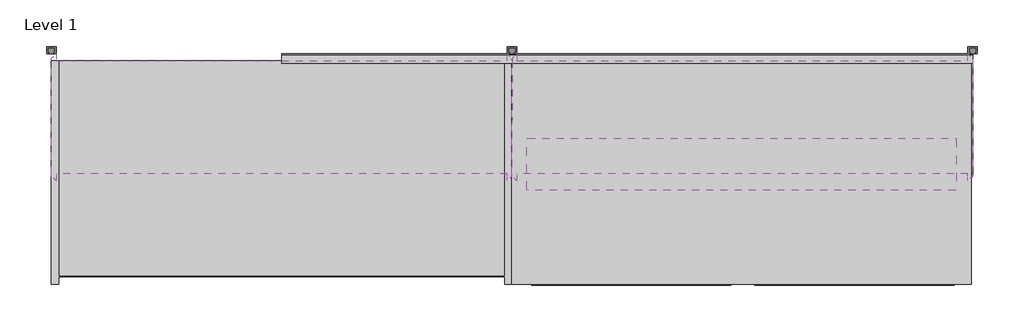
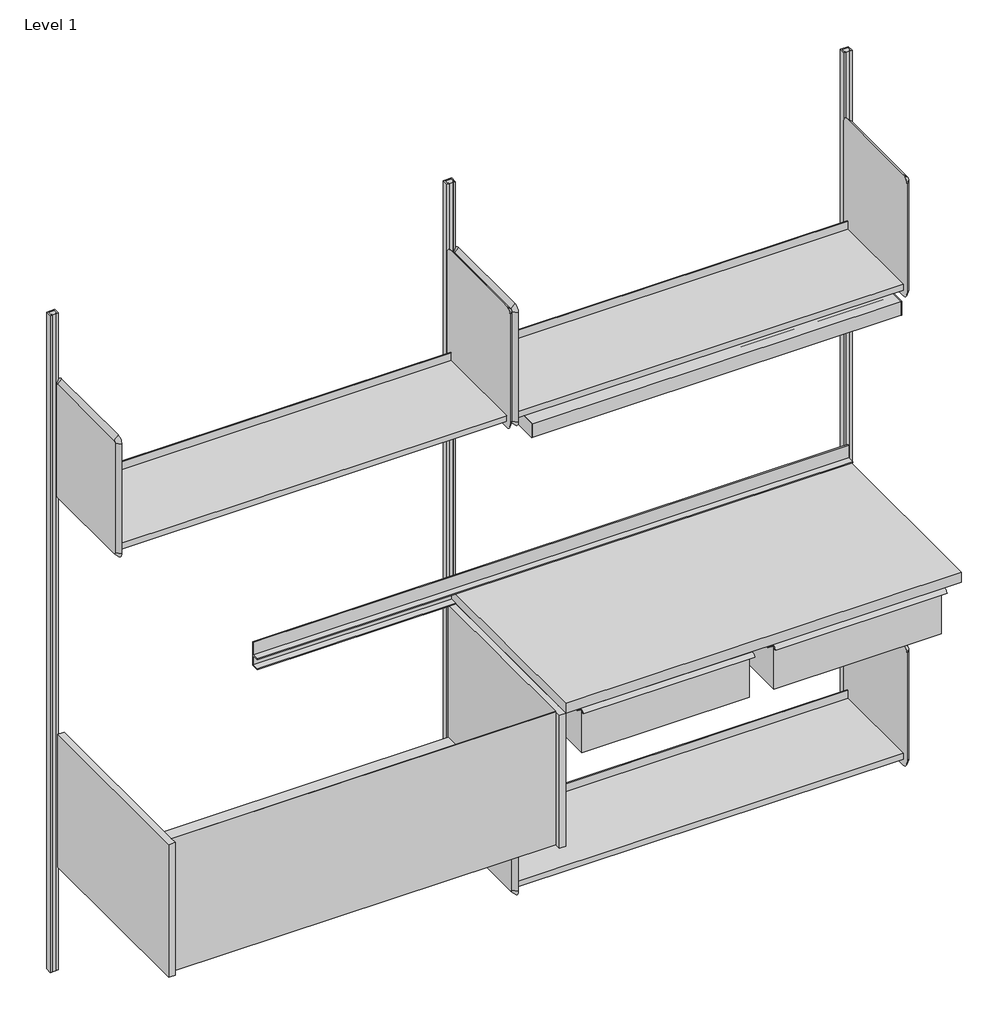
# One storey, incomplete: 12 furniture elements, 1 light fixture.
"""IFC4 building model written with IfcOpenShell, lengths in millimetres."""

import ifcopenshell
import ifcopenshell.guid

model = None  # the IFC model being written
_history = None  # IfcOwnerHistory: only IFC2X3 demands one
_inside = {}  # id of a spatial element -> (the spatial element, [elements in it])
_under = {}  # id of a project, library or spatial element -> (it, [spatial elements below it])
_declared = {}  # id of a project -> (the project, [libraries it declares])
_typed = {}  # id of a type object -> (the type object, [elements of that type])
_made_of = {}  # id of a material, layer set ... -> (it, [elements and type objects made of it])


def new_model(schema):
    """Start an empty IFC model of exactly this schema.

    Asked for "IFC4X3", IfcOpenShell would pick the latest addendum, in which some entities
    have other attributes; the version numbers below select the first issue.
    IFC2X3 requires an IfcOwnerHistory on every rooted entity: one is made here for all.
    """
    global model, _history
    if schema == "IFC4X3":
        model = ifcopenshell.file(schema_version=(4, 3, 0, 0))
    else:
        model = ifcopenshell.file(schema=schema)
    _inside.clear()
    _under.clear()
    _declared.clear()
    _typed.clear()
    _made_of.clear()
    _history = None
    if model.schema == "IFC2X3":
        org = make("IfcOrganization", Name="unknown")
        user = make(
            "IfcPersonAndOrganization",
            ThePerson=make("IfcPerson", FamilyName="unknown"),
            TheOrganization=org,
        )
        app = make(
            "IfcApplication",
            ApplicationDeveloper=org,
            Version="unknown",
            ApplicationFullName="unknown",
            ApplicationIdentifier="unknown",
        )
        _history = make(
            "IfcOwnerHistory",
            OwningUser=user,
            OwningApplication=app,
            ChangeAction="ADDED",
            CreationDate=0,
        )
    return model


def make(cls, **values):
    """One entity of the class cls with the attributes given. An attribute that is None is left unset."""
    return model.create_entity(
        cls, **{name: value for name, value in values.items() if value is not None}
    )


def rooted(cls, **values):
    """An entity with a GlobalId (a new one), such as an element, a storey or a relation."""
    return make(cls, GlobalId=ifcopenshell.guid.new(), OwnerHistory=_history, **values)


def si_unit(unit_type, name, prefix=None):
    """IfcSIUnit, for example si_unit("LENGTHUNIT", "METRE", prefix="MILLI")."""
    return make("IfcSIUnit", UnitType=unit_type, Prefix=prefix, Name=name)


def assignment(units):
    """IfcUnitAssignment: the units of a project."""
    return None if units is None else make("IfcUnitAssignment", Units=units)


def point(xyz):
    """IfcCartesianPoint."""
    return None if xyz is None else make("IfcCartesianPoint", Coordinates=xyz)


def direction(xyz):
    """IfcDirection."""
    return None if xyz is None else make("IfcDirection", DirectionRatios=xyz)


def frame(location, z_axis=None, x_axis=None):
    """IfcAxis2Placement3D, a coordinate frame: its origin and axes. An axis left out is left unset."""
    return make(
        "IfcAxis2Placement3D",
        Location=point(location),
        Axis=direction(z_axis),
        RefDirection=direction(x_axis),
    )


def frame_2d(location, x_axis=None):
    """IfcAxis2Placement2D, a coordinate frame in the plane: its origin and x axis."""
    return make(
        "IfcAxis2Placement2D", Location=point(location), RefDirection=direction(x_axis)
    )


def origin():
    """The frame at (0, 0, 0) with its axes left unset."""
    return frame((0.0, 0.0, 0.0))


def place(relative_to, where):
    """IfcLocalPlacement: puts the frame where relative to a parent placement (None: the world)."""
    return make(
        "IfcLocalPlacement", PlacementRelTo=relative_to, RelativePlacement=where
    )


def context(
    kind, dimensions, precision=None, world=None, true_north=None, identifier=None
):
    """IfcGeometricRepresentationContext, for example the 3D "Model" context."""
    return make(
        "IfcGeometricRepresentationContext",
        ContextIdentifier=identifier,
        ContextType=kind,
        CoordinateSpaceDimension=dimensions,
        Precision=precision,
        WorldCoordinateSystem=world,
        TrueNorth=true_north,
    )


def project(units=None, contexts=None):
    """IfcProject with its units and contexts."""
    return rooted(
        "IfcProject",
        Name="project",
        RepresentationContexts=contexts,
        UnitsInContext=assignment(units),
    )


def spatial(cls, under=None, at=None, **own):
    """A site, building, storey or space (cls), placed at a placement, below another one or the project."""
    s = rooted(cls, ObjectPlacement=at, **own)
    if under is not None:
        _under.setdefault(under.id(), (under, []))[1].append(s)
    return s


def polyline(points):
    """IfcPolyline through the points."""
    return make("IfcPolyline", Points=[point(p) for p in points])


def circle_curve(where, radius):
    """IfcCircle in the frame where."""
    return make("IfcCircle", Position=where, Radius=radius)


def trimmed(basis, trim1, trim2, sense, master):
    """IfcTrimmedCurve: the piece of a basis curve between two trims."""
    return make(
        "IfcTrimmedCurve",
        BasisCurve=basis,
        Trim1=trim1,
        Trim2=trim2,
        SenseAgreement=sense,
        MasterRepresentation=master,
    )


def segment(curve, same_sense, transition):
    """IfcCompositeCurveSegment."""
    return make(
        "IfcCompositeCurveSegment",
        Transition=transition,
        SameSense=same_sense,
        ParentCurve=curve,
    )


def composite_curve(segments, self_intersect=None):
    """IfcCompositeCurve: segments joined end to end."""
    return make("IfcCompositeCurve", Segments=segments, SelfIntersect=self_intersect)


def outline(outer, holes=None, kind="AREA"):
    """IfcArbitraryClosedProfileDef: a profile drawn as a closed curve; with holes, ...WithVoids."""
    if holes is None:
        return make("IfcArbitraryClosedProfileDef", ProfileType=kind, OuterCurve=outer)
    return make(
        "IfcArbitraryProfileDefWithVoids",
        ProfileType=kind,
        OuterCurve=outer,
        InnerCurves=holes,
    )


def extrude(swept, where, along, depth):
    """IfcExtrudedAreaSolid: the profile swept, set in the frame where, extruded along a direction by depth."""
    return make(
        "IfcExtrudedAreaSolid",
        SweptArea=swept,
        Position=where,
        ExtrudedDirection=direction(along),
        Depth=depth,
    )


def faces_of(points, faces, orient=None, outer=None):
    """IfcFace entities. A face is a list of loops; a loop is a list of indices into points, from 0.

    orient and outer hold one flag for each loop. By default every Orientation is true, the
    first loop of a face is its IfcFaceOuterBound and the others are IfcFaceBound.
    """
    made = []
    for i, loops in enumerate(faces):
        bounds = []
        for j, loop in enumerate(loops):
            is_outer = j == 0 if outer is None else outer[i][j]
            bounds.append(
                make(
                    "IfcFaceOuterBound" if is_outer else "IfcFaceBound",
                    Bound=make("IfcPolyLoop", Polygon=[points[k] for k in loop]),
                    Orientation=True if orient is None else orient[i][j],
                )
            )
        made.append(make("IfcFace", Bounds=bounds))
    return made


def faceted_brep(points, faces, orient=None, outer=None, voids=None):
    """IfcFacetedBrep: a solid bounded by flat faces; with voids (closed shells), ...WithVoids."""
    shared = [point(p) for p in points]
    hull = make("IfcClosedShell", CfsFaces=faces_of(shared, faces, orient, outer))
    if voids is None:
        return make("IfcFacetedBrep", Outer=hull)
    return make(
        "IfcFacetedBrepWithVoids",
        Outer=hull,
        Voids=[
            make(cls, CfsFaces=faces_of(shared, fs, o, b)) for cls, fs, o, b in voids
        ],
    )


def shape(context_of_items, identifier, shape_type, items):
    """IfcShapeRepresentation: the items that make up one representation, for example the "Body"."""
    return make(
        "IfcShapeRepresentation",
        ContextOfItems=context_of_items,
        RepresentationIdentifier=identifier,
        RepresentationType=shape_type,
        Items=items,
    )


def source(mapping_origin, context_of_items, identifier, shape_type, items):
    """IfcRepresentationMap: a shape defined once, which mapped items show again and again."""
    return make(
        "IfcRepresentationMap",
        MappingOrigin=mapping_origin,
        MappedRepresentation=shape(context_of_items, identifier, shape_type, items),
    )


def transform(
    local_origin,
    x_axis=None,
    y_axis=None,
    z_axis=None,
    scale=None,
    scale2=None,
    scale3=None,
    uniform=True,
):
    """IfcCartesianTransformationOperator3D, or its non-uniform kind. x_axis, y_axis, z_axis: its Axis1, 2, 3."""
    if uniform:
        return make(
            "IfcCartesianTransformationOperator3D",
            Axis1=direction(x_axis),
            Axis2=direction(y_axis),
            LocalOrigin=point(local_origin),
            Scale=scale,
            Axis3=direction(z_axis),
        )
    return make(
        "IfcCartesianTransformationOperator3DnonUniform",
        Axis1=direction(x_axis),
        Axis2=direction(y_axis),
        LocalOrigin=point(local_origin),
        Scale=scale,
        Axis3=direction(z_axis),
        Scale2=scale2,
        Scale3=scale3,
    )


def mapped(mapping_source, mapping_target):
    """IfcMappedItem: shows the shape of a source again, moved by a transform."""
    return make(
        "IfcMappedItem", MappingSource=mapping_source, MappingTarget=mapping_target
    )


def made_of(thing, what):
    """Note that an element or type object is made of a material, layer set ...; save() writes the relation."""
    if what is not None:
        _made_of.setdefault(what.id(), (what, []))[1].append(thing)
    return thing


def element(
    cls,
    number,
    at=None,
    inside=None,
    cuts=None,
    type_object=None,
    material=None,
    context=None,
    identifier="Body",
    shape_type=None,
    held_by="IfcProductDefinitionShape",
    body=None,
    shapes=None,
    **own,
):
    """One element of the class cls, such as IfcWall. Its Tag is "e" and its number.

    at: its placement. inside: the storey or other place that contains it. cuts: it is an
    opening in that element (IfcRelVoidsElement). A single representation is given by context,
    identifier, shape_type and body (its items); several are given by shapes. held_by: the class
    of the entity that holds the representations. save() writes the other relations.
    """
    e = rooted(cls, Tag="e%d" % number, ObjectPlacement=at, **own)
    if body is not None:
        shapes = [shape(context, identifier, shape_type, body)]
    if shapes is not None:
        e.Representation = make(held_by, Representations=shapes)
    if inside is not None:
        _inside.setdefault(inside.id(), (inside, []))[1].append(e)
    if cuts is not None:
        rooted(
            "IfcRelVoidsElement", RelatingBuildingElement=cuts, RelatedOpeningElement=e
        )
    if type_object is not None:
        _typed.setdefault(type_object.id(), (type_object, []))[1].append(e)
    return made_of(e, material)


def aggregate(whole, parts):
    """IfcRelAggregates: a whole, such as a stair, and the parts it consists of."""
    return rooted("IfcRelAggregates", RelatingObject=whole, RelatedObjects=parts)


def save(model, path):
    """Write the relations noted so far, then the file.

    IfcRelAggregates (storeys below a building ...), IfcRelContainedInSpatialStructure (elements
    in a storey), IfcRelDefinesByType, IfcRelAssociatesMaterial and IfcRelDeclares: one each for
    every whole, place, type object, material and project.
    """
    for whole, parts in _under.values():
        aggregate(whole, parts)
    for where, things in _inside.values():
        rooted(
            "IfcRelContainedInSpatialStructure",
            RelatedElements=things,
            RelatingStructure=where,
        )
    for kind, things in _typed.values():
        rooted("IfcRelDefinesByType", RelatedObjects=things, RelatingType=kind)
    for what, things in _made_of.values():
        rooted("IfcRelAssociatesMaterial", RelatedObjects=things, RelatingMaterial=what)
    for by, libraries in _declared.values():
        rooted("IfcRelDeclares", RelatingContext=by, RelatedDefinitions=libraries)
    model.write(path)


def plane_surface(at):
    """IfcPlane: the flat surface through the origin of the frame at, square to its z axis."""
    return make("IfcPlane", Position=at)


def cylinder_surface(at, radius):
    """IfcCylindricalSurface: all points at the distance radius from the z axis of the frame at."""
    return make("IfcCylindricalSurface", Position=at, Radius=radius)


def revolved_surface(curve, axis_point, axis_direction):
    """IfcSurfaceOfRevolution: the curve turned about the line through axis_point along axis_direction."""
    return make(
        "IfcSurfaceOfRevolution",
        SweptCurve=make("IfcArbitraryOpenProfileDef", ProfileType="CURVE", Curve=curve),
        AxisPosition=make("IfcAxis1Placement", Location=point(axis_point), Axis=direction(axis_direction)),
    )


def advanced_brep(points, edges, surfaces, faces):
    """IfcAdvancedBrep: a solid bounded by faces that lie on surfaces and meet in shared edges.

    An edge is (start, end): straight between two places in points (the first is 0);
    or (start, end, curve); or (start, end, curve, False) where it runs against its curve.
    A face is (place in surfaces, loops), or (place, loops, False) where it looks against
    its surface's normal. A loop lists edges by number (the first is 1), with a minus sign
    where the edge is run from its end to its start. The first loop is the outer one.
    """
    corners = [point(p) for p in points]
    vertices = [make("IfcVertexPoint", VertexGeometry=c) for c in corners]
    made = []
    for start, end, *more in edges:
        made.append(
            make(
                "IfcEdgeCurve",
                EdgeStart=vertices[start],
                EdgeEnd=vertices[end],
                EdgeGeometry=more[0] if more else make("IfcPolyline", Points=[corners[start], corners[end]]),
                SameSense=more[1] if len(more) > 1 else True,
            )
        )
    hull = []
    for where, loops, *sense in faces:
        bounds = []
        for j, loop in enumerate(loops):
            ring = [make("IfcOrientedEdge", EdgeElement=made[abs(k) - 1], Orientation=k > 0) for k in loop]
            bounds.append(
                make(
                    "IfcFaceOuterBound" if j == 0 else "IfcFaceBound",
                    Bound=make("IfcEdgeLoop", EdgeList=ring),
                    Orientation=True,
                )
            )
        hull.append(make("IfcAdvancedFace", Bounds=bounds, FaceSurface=surfaces[where], SameSense=sense[0] if sense else True))
    return make("IfcAdvancedBrep", Outer=make("IfcClosedShell", CfsFaces=hull))


def furniture_d92eedc3(model_context):
    return source(origin(), model_context, "Body", "SweptSolid", [
        extrude(outline(polyline([(-3.175, 958.85), (0.0, 958.85), (0.0, 882.65), (-25.4, 882.65), (-25.4, 885.825), (-3.175, 885.825), (-3.175, 914.4), (-25.4, 914.4), (-25.4, 917.575), (-3.175, 917.575), (-3.175, 958.85)])), frame((-914.4, 0.0, 0.0), z_axis=(1.0, 0.0, 0.0), x_axis=(0.0, 1.0, 0.0)), (0.0, 0.0, 1.0), 1828.8),
    ])


def furniture_ea4a19f1(model_context):
    return source(origin(), model_context, "Body", "Brep", [
        faceted_brep([(590.55, -401.6375, 882.65), (-590.55, -401.6375, 882.65), (-590.55, 168.275, 882.65), (-609.6, 168.275, 882.65), (-609.6, -422.275, 882.65), (-590.55, -422.275, 882.65), (-590.55, -403.225, 882.65), (590.55, -403.225, 882.65), (590.55, -422.275, 882.65), (609.6, -422.275, 882.65), (609.6, 168.275, 882.65), (590.55, 168.275, 882.65), (-590.55, -403.225, 450.85), (590.55, -403.225, 450.85), (-590.55, -422.275, 450.85), (-609.6, -422.275, 450.85), (-609.6, 168.275, 450.85), (609.6, 168.275, 450.85), (609.6, -422.275, 450.85), (590.55, -422.275, 450.85), (-590.55, 168.275, 452.4375), (590.55, 168.275, 452.4375), (-590.55, -401.6375, 452.4375), (590.55, -401.6375, 452.4375)], [[[0, 1, 2, 3, 4, 5, 6, 7, 8, 9, 10, 11]], [[7, 6, 12, 13]], [[13, 12, 14, 15, 16, 17, 18, 19]], [[17, 16, 3, 2, 20, 21, 11, 10]], [[21, 20, 22, 23]], [[1, 0, 23, 22]], [[0, 11, 21, 23]], [[19, 8, 7, 13]], [[9, 8, 19, 18]], [[10, 9, 18, 17]], [[2, 1, 22, 20]], [[5, 14, 12, 6]], [[4, 3, 16, 15]], [[5, 4, 15, 14]]]),
    ])


def furniture_de886b3f(model_context):
    return source(origin(), model_context, "Body", "SweptSolid", [
        extrude(outline(polyline([(912.8125, 177.8), (912.8125, -431.8), (-303.2125, -431.8), (-303.2125, 177.8), (912.8125, 177.8)])), frame((0.0, 0.0, 882.65), z_axis=(0.0, 0.0, 1.0), x_axis=(1.0, 0.0, 0.0)), (0.0, 0.0, 1.0), 31.75),
        extrude(outline(polyline([(879.475, 63.5), (879.475, 25.4), (-269.875, 25.4), (-269.875, 63.5), (879.475, 63.5)])), frame((0.0, 0.0, 825.5), z_axis=(0.0, 0.0, 1.0), x_axis=(1.0, 0.0, 0.0)), (0.0, 0.0, 1.0), 57.15),
        extrude(outline(polyline([(858.8375, 333.375), (882.65, 333.375), (882.65, 331.7875), (857.25, 331.7875), (857.25, 346.075), (858.8375, 346.075), (858.8375, 333.375)])), frame((0.0, -406.4, 0.0), z_axis=(0.0, 1.0, 0.0), x_axis=(0.0, 0.0, 1.0)), (0.0, 0.0, 1.0), 390.525),
        extrude(outline(polyline([(858.8375, 276.225), (858.8375, 263.525), (857.25, 263.525), (857.25, 277.8125), (882.65, 277.8125), (882.65, 276.225), (858.8375, 276.225)])), frame((0.0, -406.4, 0.0), z_axis=(0.0, 1.0, 0.0), x_axis=(0.0, 0.0, 1.0)), (0.0, 0.0, 1.0), 390.525),
        extrude(outline(polyline([(858.8375, -250.825), (882.65, -250.825), (882.65, -252.4125), (857.25, -252.4125), (857.25, -238.125), (858.8375, -238.125), (858.8375, -250.825)])), frame((0.0, -406.4, 0.0), z_axis=(0.0, 1.0, 0.0), x_axis=(0.0, 0.0, 1.0)), (0.0, 0.0, 1.0), 390.525),
        extrude(outline(polyline([(858.8375, 860.425), (858.8375, 847.725), (857.25, 847.725), (857.25, 862.0125), (882.65, 862.0125), (882.65, 860.425), (858.8375, 860.425)])), frame((0.0, -406.4, 0.0), z_axis=(0.0, 1.0, 0.0), x_axis=(0.0, 0.0, 1.0)), (0.0, 0.0, 1.0), 390.525),
    ])


def furniture_13607bd2(model_context):
    return source(origin(), model_context, "Body", "SweptSolid", [
        extrude(outline(composite_curve([segment(polyline([(177.8, 882.65), (177.8, 533.4), (12.7, 533.4), (12.7, 831.85)]), True, "CONTINUOUS"), segment(trimmed(circle_curve(frame_2d((-388.143904, -2317.7524637)), 3175.0073252), [point((12.7, 831.85))], [point((-393.7, 857.25))], True, "CARTESIAN"), True, "CONTINUOUS"), segment(polyline([(-393.7, 857.25), (-393.7, 882.65), (177.8, 882.65)]), True, "CONTINUOUS")], self_intersect=False)), frame((574.675, 0.0, 0.0), z_axis=(1.0, 0.0, 0.0), x_axis=(0.0, 1.0, 0.0)), (0.0, 0.0, 1.0), 33.3375),
        extrude(outline(composite_curve([segment(polyline([(-393.7, 857.25), (-393.7, 882.65), (177.8, 882.65), (177.8, 533.4), (12.7, 533.4), (12.7, 831.85)]), True, "CONTINUOUS"), segment(trimmed(circle_curve(frame_2d((-388.143904, -2317.7524637)), 3175.0073252), [point((12.7, 831.85))], [point((-393.7, 857.25))], True, "CARTESIAN"), True, "CONTINUOUS")], self_intersect=False)), frame((-608.0125, 0.0, 0.0), z_axis=(1.0, 0.0, 0.0), x_axis=(0.0, 1.0, 0.0)), (0.0, 0.0, 1.0), 33.3375),
    ])


def furniture_8d228605(model_context):
    return source(origin(), model_context, "Body", "SolidModel", [
        extrude(outline(polyline([(-136.525, 1219.2), (158.75, 1219.2), (158.75, 1244.6), (161.925, 1244.6), (161.925, 1200.1152313), (-136.525, 1200.1152313), (-136.525, 1219.2)])), frame((-720.8420045, 0.0, 0.0), z_axis=(1.0, 0.0, 0.0), x_axis=(0.0, 1.0, 0.0)), (0.0, 0.0, 1.0), 1193.8),
        advanced_brep(
        [(472.9579955, -155.575, 1555.75), (472.9579955, -155.575, 1200.15), (485.6579955, -142.875, 1200.15), (485.6579955, -142.875, 1555.75), (485.6579955, 161.925, 1562.1), (485.6579955, -136.525, 1562.1), (485.6579955, -136.525, 1193.8), (485.6579955, 161.925, 1193.8), (485.6579955, 168.275, 1200.15), (485.6579955, 168.275, 1555.75), (472.9579955, -136.525, 1181.1), (472.9579955, 161.925, 1181.1), (472.9579955, 180.975, 1200.15), (472.9579955, 180.975, 1555.75), (472.9579955, 161.925, 1574.8), (472.9579955, -136.525, 1574.8)],
        [
            (0, 1),
            (1, 2),
            (2, 3),
            (3, 0),
            (4, 5),
            (5, 3, circle_curve(frame((485.6579955, -136.525, 1555.75), z_axis=(1.0, 0.0, 0.0), x_axis=(0.0, 0.0, 1.0)), 6.35)),
            (2, 6, circle_curve(frame((485.6579955, -136.525, 1200.15), z_axis=(1.0, 0.0, 0.0), x_axis=(0.0, -1.0, 0.0)), 6.35)),
            (6, 7),
            (7, 8, circle_curve(frame((485.6579955, 161.925, 1200.15), z_axis=(1.0, 0.0, 0.0), x_axis=(0.0, 0.0, -1.0)), 6.35)),
            (8, 9),
            (9, 4, circle_curve(frame((485.6579955, 161.925, 1555.75), z_axis=(1.0, 0.0, 0.0), x_axis=(0.0, 1.0, 0.0)), 6.35)),
            (1, 10, circle_curve(frame((472.9579955, -136.525, 1200.15), z_axis=(1.0, 0.0, 0.0), x_axis=(0.0, -1.0, 0.0)), 19.05)),
            (10, 6),
            (10, 11),
            (11, 7),
            (11, 12, circle_curve(frame((472.9579955, 161.925, 1200.15), z_axis=(1.0, 0.0, 0.0), x_axis=(0.0, 0.0, -1.0)), 19.05)),
            (12, 8),
            (12, 13),
            (13, 9),
            (14, 13, circle_curve(frame((472.9579955, 161.925, 1555.75), z_axis=(-1.0, 0.0, 0.0), x_axis=(0.0, 1.0, 0.0)), 19.05)),
            (0, 15, circle_curve(frame((472.9579955, -136.525, 1555.75), z_axis=(-1.0, 0.0, 0.0), x_axis=(0.0, 0.0, 1.0)), 19.05)),
            (15, 14),
            (15, 5),
            (4, 14),
        ],
        [
            plane_surface(frame((472.9579955, -155.575, 1377.95), z_axis=(0.7071067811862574, -0.7071067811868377, 0.0), x_axis=(0.0, 0.0, -1.0))),
            plane_surface(frame((485.6579955, 12.7, 1377.95), z_axis=(1.0, 0.0, 0.0), x_axis=(0.0, -1.0, 0.0))),
            revolved_surface(polyline([(485.6579955, -142.87499999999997, 1200.15), (472.9579955, -155.575, 1200.15)]), (492.0079955, -136.525, 1200.15), (-1.0, 0.0, 0.0)),
            plane_surface(frame((472.9579955, 12.7, 1181.1), z_axis=(0.7071067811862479, 0.0, -0.7071067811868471), x_axis=(0.0, 1.0, 0.0))),
            revolved_surface(polyline([(485.6579955, 161.925, 1193.8000000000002), (472.9579955, 161.925, 1181.1)]), (492.0079955, 161.925, 1200.15), (-1.0, 0.0, 0.0)),
            plane_surface(frame((472.9579955, 180.975, 1377.95), z_axis=(0.7071067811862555, 0.7071067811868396, 0.0), x_axis=(0.0, 0.0, 1.0))),
            plane_surface(frame((472.9579955, 12.7, 1377.95), z_axis=(-1.0, 0.0, 0.0), x_axis=(0.0, -1.0, 0.0))),
            plane_surface(frame((472.9579955, 12.7, 1574.8), z_axis=(0.7071067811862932, 0.0, 0.7071067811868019), x_axis=(0.0, -1.0, 0.0))),
            revolved_surface(polyline([(485.6579955, -136.525, 1562.1), (472.9579955, -136.525, 1574.8)]), (492.0079955, -136.525, 1555.75), (-1.0, 0.0, 0.0)),
            revolved_surface(polyline([(485.6579955, 168.27499999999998, 1555.75), (472.9579955, 180.975, 1555.75)]), (492.0079955, 161.925, 1555.75), (-1.0, 0.0, 0.0)),
        ],
        [
            (0, [[1, 2, 3, 4]]),
            (1, [[5, 6, -3, 7, 8, 9, 10, 11]]),
            (2, [[12, 13, -7, -2]]),
            (3, [[14, 15, -8, -13]]),
            (4, [[16, 17, -9, -15]]),
            (5, [[18, 19, -10, -17]]),
            (6, [[20, -18, -16, -14, -12, -1, 21, 22]]),
            (7, [[-22, 23, -5, 24]]),
            (8, [[-21, -4, -6, -23]]),
            (9, [[-20, -24, -11, -19]]),
        ],
    ),
        advanced_brep(
        [(-720.8420045, 180.975, 1555.75), (-720.8420045, 180.975, 1200.15), (-733.5420045, 168.275, 1200.15), (-733.5420045, 168.275, 1555.75), (-733.5420045, -136.525, 1562.1), (-733.5420045, 161.925, 1562.1), (-733.5420045, 161.925, 1193.8), (-733.5420045, -136.525, 1193.8), (-733.5420045, -142.875, 1200.15), (-733.5420045, -142.875, 1555.75), (-720.8420045, 161.925, 1181.1), (-720.8420045, -136.525, 1181.1), (-720.8420045, -155.575, 1200.15), (-720.8420045, -155.575, 1555.75), (-720.8420045, -136.525, 1574.8), (-720.8420045, 161.925, 1574.8)],
        [
            (0, 1),
            (1, 2),
            (2, 3),
            (3, 0),
            (4, 5),
            (5, 3, circle_curve(frame((-733.5420045, 161.925, 1555.75), z_axis=(-1.0, 4.822808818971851e-12, 2.32347474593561e-12), x_axis=(2.323422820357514e-12, 0.0, 1.0)), 6.35)),
            (2, 6, circle_curve(frame((-733.5420045, 161.925, 1200.15), z_axis=(-1.0, 1.0604850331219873e-12, 7.204903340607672e-12), x_axis=(1.060440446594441e-12, 1.0, 0.0)), 6.35)),
            (6, 7),
            (7, 8, circle_curve(frame((-733.5420045, -136.525, 1200.15), z_axis=(-1.0, 1.4002132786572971e-12, 0.0), x_axis=(0.0, 0.0, -1.0)), 6.35)),
            (8, 9),
            (9, 4, circle_curve(frame((-733.5420045, -136.525, 1555.75), z_axis=(-1.0, 0.0, 3.048228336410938e-12), x_axis=(0.0, -1.0, 0.0)), 6.35)),
            (1, 10, circle_curve(frame((-720.8420045, 161.925, 1200.15), z_axis=(-1.0, 1.0604850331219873e-12, 7.204903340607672e-12), x_axis=(1.060440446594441e-12, 1.0, 0.0)), 19.05)),
            (10, 6),
            (10, 11),
            (11, 7),
            (11, 12, circle_curve(frame((-720.8420045, -136.525, 1200.15), z_axis=(-1.0, 1.4002132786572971e-12, 0.0), x_axis=(0.0, 0.0, -1.0)), 19.05)),
            (12, 8),
            (12, 13),
            (13, 9),
            (14, 13, circle_curve(frame((-720.8420045, -136.525, 1555.75), z_axis=(1.0, 0.0, -3.048228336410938e-12), x_axis=(0.0, -1.0, 0.0)), 19.05)),
            (0, 15, circle_curve(frame((-720.8420045, 161.925, 1555.75), z_axis=(1.0, -4.822808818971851e-12, -2.32347474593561e-12), x_axis=(2.323422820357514e-12, 0.0, 1.0)), 19.05)),
            (15, 14),
            (15, 5),
            (4, 14),
        ],
        [
            plane_surface(frame((-720.8420045, 180.975, 1377.95), z_axis=(-0.7071067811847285, 0.7071067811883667, 0.0), x_axis=(0.0, 0.0, -1.0))),
            plane_surface(frame((-733.5420045, 12.7, 1377.95), z_axis=(-1.0, 0.0, 0.0), x_axis=(0.0, -1.0, 0.0))),
            revolved_surface(polyline([(-733.5420045, 168.27500000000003, 1200.15), (-720.8420044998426, 180.97500000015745, 1200.15)]), (-739.8920045, 161.925, 1200.15), (1.0, -1.0604850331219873e-12, -7.204903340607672e-12)),
            plane_surface(frame((-720.8420045, 12.7, 1181.1), z_axis=(-0.7071067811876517, 0.0, -0.7071067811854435), x_axis=(0.0, -1.0, 0.0))),
            revolved_surface(polyline([(-733.5420045, -136.525, 1193.8), (-720.8420044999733, -136.525, 1181.0999999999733)]), (-739.8920045, -136.525, 1200.15), (1.0, -1.4002132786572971e-12, 0.0)),
            plane_surface(frame((-720.8420045, -155.575, 1377.95), z_axis=(-0.7071067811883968, -0.7071067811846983, 0.0), x_axis=(0.0, 0.0, 1.0))),
            plane_surface(frame((-720.8420045, 12.7, 1377.95), z_axis=(1.0, 0.0, 0.0), x_axis=(0.0, -1.0, 0.0))),
            plane_surface(frame((-720.8420045, 12.7, 1574.8), z_axis=(-0.7071067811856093, 0.0, 0.7071067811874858), x_axis=(0.0, 1.0, 0.0))),
            revolved_surface(polyline([(-733.5420045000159, 161.925, 1562.0999999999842), (-720.8420044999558, 161.925, 1574.8000000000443)]), (-739.8920045, 161.925, 1555.75), (1.0, -4.822808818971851e-12, -2.32347474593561e-12)),
            revolved_surface(polyline([(-733.5420045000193, -142.87499999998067, 1555.75), (-720.8420045, -155.575, 1555.75)]), (-739.8920045, -136.525, 1555.75), (1.0, 0.0, -3.048228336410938e-12)),
        ],
        [
            (0, [[1, 2, 3, 4]]),
            (1, [[5, 6, -3, 7, 8, 9, 10, 11]]),
            (2, [[12, 13, -7, -2]]),
            (3, [[14, 15, -8, -13]]),
            (4, [[16, 17, -9, -15]]),
            (5, [[18, 19, -10, -17]]),
            (6, [[20, -18, -16, -14, -12, -1, 21, 22]]),
            (7, [[-22, 23, -5, 24]]),
            (8, [[-21, -4, -6, -23]]),
            (9, [[-20, -24, -11, -19]]),
        ],
    ),
    ])


def furniture_df8e602a(model_context):
    return source(origin(), model_context, "Body", "SolidModel", [
        extrude(outline(polyline([(-136.525, 152.4), (158.75, 152.4), (158.75, 177.8), (161.925, 177.8), (161.925, 133.3152313), (-136.525, 133.3152313), (-136.525, 152.4)])), frame((-720.8420045, 0.0, 0.0), z_axis=(1.0, 0.0, 0.0), x_axis=(0.0, 1.0, 0.0)), (0.0, 0.0, 1.0), 1193.8),
        advanced_brep(
        [(472.9579955, -155.575, 488.95), (472.9579955, -155.575, 133.35), (485.6579955, -142.875, 133.35), (485.6579955, -142.875, 488.95), (485.6579955, 161.925, 495.3), (485.6579955, -136.525, 495.3), (485.6579955, -136.525, 127.0), (485.6579955, 161.925, 127.0), (485.6579955, 168.275, 133.35), (485.6579955, 168.275, 488.95), (472.9579955, -136.525, 114.3), (472.9579955, 161.925, 114.3), (472.9579955, 180.975, 133.35), (472.9579955, 180.975, 488.95), (472.9579955, 161.925, 508.0), (472.9579955, -136.525, 508.0)],
        [
            (0, 1),
            (1, 2),
            (2, 3),
            (3, 0),
            (4, 5),
            (5, 3, circle_curve(frame((485.6579955, -136.525, 488.95), z_axis=(1.0, 0.0, 0.0), x_axis=(0.0, 0.0, 1.0)), 6.35)),
            (2, 6, circle_curve(frame((485.6579955, -136.525, 133.35), z_axis=(1.0, 0.0, 0.0), x_axis=(0.0, -1.0, 0.0)), 6.35)),
            (6, 7),
            (7, 8, circle_curve(frame((485.6579955, 161.925, 133.35), z_axis=(1.0, 0.0, 0.0), x_axis=(0.0, 0.0, -1.0)), 6.35)),
            (8, 9),
            (9, 4, circle_curve(frame((485.6579955, 161.925, 488.95), z_axis=(1.0, 0.0, 0.0), x_axis=(0.0, 1.0, 0.0)), 6.35)),
            (1, 10, circle_curve(frame((472.9579955, -136.525, 133.35), z_axis=(1.0, 0.0, 0.0), x_axis=(0.0, -1.0, 0.0)), 19.05)),
            (10, 6),
            (10, 11),
            (11, 7),
            (11, 12, circle_curve(frame((472.9579955, 161.925, 133.35), z_axis=(1.0, 0.0, 0.0), x_axis=(0.0, 0.0, -1.0)), 19.05)),
            (12, 8),
            (12, 13),
            (13, 9),
            (14, 13, circle_curve(frame((472.9579955, 161.925, 488.95), z_axis=(-1.0, 0.0, 0.0), x_axis=(0.0, 1.0, 0.0)), 19.05)),
            (0, 15, circle_curve(frame((472.9579955, -136.525, 488.95), z_axis=(-1.0, 0.0, 0.0), x_axis=(0.0, 0.0, 1.0)), 19.05)),
            (15, 14),
            (15, 5),
            (4, 14),
        ],
        [
            plane_surface(frame((472.9579955, -155.575, 311.15), z_axis=(0.7071067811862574, -0.7071067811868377, 0.0), x_axis=(0.0, 0.0, -1.0))),
            plane_surface(frame((485.6579955, 12.7, 311.15), z_axis=(1.0, 0.0, 0.0), x_axis=(0.0, -1.0, 0.0))),
            revolved_surface(polyline([(485.6579955, -142.87499999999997, 133.35), (472.9579955, -155.575, 133.35)]), (492.0079955, -136.525, 133.35), (-1.0, 0.0, 0.0)),
            plane_surface(frame((472.9579955, 12.7, 114.3), z_axis=(0.7071067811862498, 0.0, -0.7071067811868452), x_axis=(0.0, 1.0, 0.0))),
            revolved_surface(polyline([(485.6579955, 161.925, 127.00000000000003), (472.9579955, 161.925, 114.3)]), (492.0079955, 161.925, 133.35), (-1.0, 0.0, 0.0)),
            plane_surface(frame((472.9579955, 180.975, 311.15), z_axis=(0.7071067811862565, 0.7071067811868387, 0.0), x_axis=(0.0, 0.0, 1.0))),
            plane_surface(frame((472.9579955, 12.7, 311.15), z_axis=(-1.0, 0.0, 0.0), x_axis=(0.0, -1.0, 0.0))),
            plane_surface(frame((472.9579955, 12.7, 508.0), z_axis=(0.7071067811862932, 0.0, 0.7071067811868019), x_axis=(0.0, -1.0, 0.0))),
            revolved_surface(polyline([(485.6579955, -136.525, 495.29999999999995), (472.9579955, -136.525, 508.0)]), (492.0079955, -136.525, 488.95), (-1.0, 0.0, 0.0)),
            revolved_surface(polyline([(485.6579955, 168.27499999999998, 488.95), (472.9579955, 180.975, 488.95)]), (492.0079955, 161.925, 488.95), (-1.0, 0.0, 0.0)),
        ],
        [
            (0, [[1, 2, 3, 4]]),
            (1, [[5, 6, -3, 7, 8, 9, 10, 11]]),
            (2, [[12, 13, -7, -2]]),
            (3, [[14, 15, -8, -13]]),
            (4, [[16, 17, -9, -15]]),
            (5, [[18, 19, -10, -17]]),
            (6, [[20, -18, -16, -14, -12, -1, 21, 22]]),
            (7, [[-22, 23, -5, 24]]),
            (8, [[-21, -4, -6, -23]]),
            (9, [[-20, -24, -11, -19]]),
        ],
    ),
        advanced_brep(
        [(-720.8420045, 180.975, 488.95), (-720.8420045, 180.975, 133.35), (-733.5420045, 168.275, 133.35), (-733.5420045, 168.275, 488.95), (-733.5420045, -136.525, 495.3), (-733.5420045, 161.925, 495.3), (-733.5420045, 161.925, 127.0), (-733.5420045, -136.525, 127.0), (-733.5420045, -142.875, 133.35), (-733.5420045, -142.875, 488.95), (-720.8420045, 161.925, 114.3), (-720.8420045, -136.525, 114.3), (-720.8420045, -155.575, 133.35), (-720.8420045, -155.575, 488.95), (-720.8420045, -136.525, 508.0), (-720.8420045, 161.925, 508.0)],
        [
            (0, 1),
            (1, 2),
            (2, 3),
            (3, 0),
            (4, 5),
            (5, 3, circle_curve(frame((-733.5420045, 161.925, 488.95), z_axis=(-1.0, 4.822808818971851e-12, 2.334132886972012e-12), x_axis=(2.334099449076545e-12, 0.0, 1.0)), 6.35)),
            (2, 6, circle_curve(frame((-733.5420045, 161.925, 133.35), z_axis=(-1.0, 1.0604850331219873e-12, 7.204903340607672e-12), x_axis=(1.060440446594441e-12, 1.0, 0.0)), 6.35)),
            (6, 7),
            (7, 8, circle_curve(frame((-733.5420045, -136.525, 133.35), z_axis=(-1.0, 1.4002132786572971e-12, 0.0), x_axis=(0.0, 0.0, -1.0)), 6.35)),
            (8, 9),
            (9, 4, circle_curve(frame((-733.5420045, -136.525, 488.95), z_axis=(-1.0, 0.0, 3.05888647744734e-12), x_axis=(0.0, -1.0, 0.0)), 6.35)),
            (1, 10, circle_curve(frame((-720.8420045, 161.925, 133.35), z_axis=(-1.0, 1.0604850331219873e-12, 7.204903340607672e-12), x_axis=(1.060440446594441e-12, 1.0, 0.0)), 19.05)),
            (10, 6),
            (10, 11),
            (11, 7),
            (11, 12, circle_curve(frame((-720.8420045, -136.525, 133.35), z_axis=(-1.0, 1.4002132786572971e-12, 0.0), x_axis=(0.0, 0.0, -1.0)), 19.05)),
            (12, 8),
            (12, 13),
            (13, 9),
            (14, 13, circle_curve(frame((-720.8420045, -136.525, 488.95), z_axis=(1.0, 0.0, -3.05888647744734e-12), x_axis=(0.0, -1.0, 0.0)), 19.05)),
            (0, 15, circle_curve(frame((-720.8420045, 161.925, 488.95), z_axis=(1.0, -4.822808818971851e-12, -2.334132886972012e-12), x_axis=(2.334099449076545e-12, 0.0, 1.0)), 19.05)),
            (15, 14),
            (15, 5),
            (4, 14),
        ],
        [
            plane_surface(frame((-720.8420045, 180.975, 311.15), z_axis=(-0.7071067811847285, 0.7071067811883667, 0.0), x_axis=(0.0, 0.0, -1.0))),
            plane_surface(frame((-733.5420045, 12.7, 311.15), z_axis=(-1.0, 0.0, 0.0), x_axis=(0.0, -1.0, 0.0))),
            revolved_surface(polyline([(-733.5420045, 168.27500000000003, 133.35), (-720.8420044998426, 180.97500000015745, 133.35)]), (-739.8920045, 161.925, 133.35), (1.0, -1.0604850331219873e-12, -7.204903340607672e-12)),
            plane_surface(frame((-720.8420045, 12.7, 114.3), z_axis=(-0.7071067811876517, 0.0, -0.7071067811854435), x_axis=(0.0, -1.0, 0.0))),
            revolved_surface(polyline([(-733.5420045, -136.525, 126.99999999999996), (-720.8420044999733, -136.525, 114.29999999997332)]), (-739.8920045, -136.525, 133.35), (1.0, -1.4002132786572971e-12, 0.0)),
            plane_surface(frame((-720.8420045, -155.575, 311.15), z_axis=(-0.7071067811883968, -0.7071067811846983, 0.0), x_axis=(0.0, 0.0, 1.0))),
            plane_surface(frame((-720.8420045, 12.7, 311.15), z_axis=(1.0, 0.0, 0.0), x_axis=(0.0, -1.0, 0.0))),
            plane_surface(frame((-720.8420045, 12.7, 508.0), z_axis=(-0.7071067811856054, 0.0, 0.7071067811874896), x_axis=(0.0, 1.0, 0.0))),
            revolved_surface(polyline([(-733.5420045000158, 161.925, 495.2999999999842), (-720.8420044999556, 161.925, 508.00000000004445)]), (-739.8920045, 161.925, 488.95), (1.0, -4.822808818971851e-12, -2.334132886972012e-12)),
            revolved_surface(polyline([(-733.5420045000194, -142.87499999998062, 488.95), (-720.8420045, -155.575, 488.95)]), (-739.8920045, -136.525, 488.95), (1.0, 0.0, -3.05888647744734e-12)),
        ],
        [
            (0, [[1, 2, 3, 4]]),
            (1, [[5, 6, -3, 7, 8, 9, 10, 11]]),
            (2, [[12, 13, -7, -2]]),
            (3, [[14, 15, -8, -13]]),
            (4, [[16, 17, -9, -15]]),
            (5, [[18, 19, -10, -17]]),
            (6, [[20, -18, -16, -14, -12, -1, 21, 22]]),
            (7, [[-22, 23, -5, 24]]),
            (8, [[-21, -4, -6, -23]]),
            (9, [[-20, -24, -11, -19]]),
        ],
    ),
    ])


def furniture_ea425779(model_context):
    return source(origin(), model_context, "Body", "SweptSolid", [
        extrude(outline(polyline([(-6.3500004, -19.05), (-12.7000004, -19.05), (-12.7000004, 0.0), (12.7000004, 0.0), (12.7000004, -19.05), (6.3500004, -19.05), (6.3500004, -15.8685185), (9.5250004, -15.8685185), (9.5250004, -3.1685185), (-9.5250004, -3.1685185), (-9.5250004, -15.8685185), (-6.3500004, -15.8685185), (-6.3500004, -19.05)])), frame((0.0, 0.0, 101.6), z_axis=(0.0, 0.0, 1.0), x_axis=(1.0, 0.0, 0.0)), (0.0, 0.0, 1.0), 2133.6),
        extrude(outline(polyline([(12.7000004, 0.0), (12.7000004, -19.05), (-12.7000004, -19.05), (-12.7000004, 0.0), (12.7000004, 0.0)])), frame((0.0, 0.0, 101.6), z_axis=(0.0, 0.0, 1.0), x_axis=(1.0, 0.0, 0.0)), (0.0, 0.0, 1.0), 2133.6),
    ])


def b_6_ee692ebc(model_context):
    return source(origin(), model_context, "Body", "AdvancedBrep", [
        advanced_brep(
        [(-257.1076517, -176.2125, 723.9), (257.2423483, -176.2125, 723.9), (257.2423483, -176.2125, 863.6), (263.5923483, -176.2125, 863.6), (263.5923483, -176.2125, 869.9071341), (-263.4576517, -176.2125, 869.9071341), (-263.4576517, -176.2125, 863.6), (-257.1076517, -176.2125, 863.6), (257.2423483, 185.7375, 723.9), (-257.1076517, 185.7375, 723.9), (-257.1076517, 185.7375, 863.6), (257.2423483, 185.7375, 863.6), (263.5923483, -181.6070544, 873.125), (263.5923483, 195.2625, 873.125), (-263.4576517, 195.2625, 873.125), (-263.4576517, -181.6070544, 873.125), (244.5423483, -168.275, 873.125), (-244.4076517, -168.275, 873.125), (-244.4076517, 176.2125, 873.125), (244.5423483, 176.2125, 873.125), (263.5923483, -195.2625, 863.6), (263.5923483, -191.8280601, 863.6), (263.5923483, -180.4714815, 869.9071341), (263.5923483, 195.2625, 863.6), (-263.4576517, 195.2625, 863.6), (-263.4576517, -180.4714815, 869.9071341), (-263.4576517, -191.8280601, 863.6), (-263.4576517, -195.2625, 863.6), (-244.4076517, -168.275, 726.9261719), (244.5423483, -168.275, 726.9261719), (244.5423483, 176.2125, 726.9261719), (-244.4076517, 176.2125, 726.9261719)],
        [
            (0, 1),
            (1, 2),
            (2, 3),
            (3, 4),
            (4, 5),
            (5, 6),
            (6, 7),
            (7, 0),
            (8, 9),
            (9, 10),
            (10, 11),
            (11, 8),
            (0, 9),
            (8, 1),
            (11, 2),
            (12, 13),
            (13, 14),
            (14, 15),
            (15, 12),
            (16, 17),
            (17, 18),
            (18, 19),
            (19, 16),
            (7, 10),
            (12, 20, circle_curve(frame((263.5923483, -181.6070544, 858.5739859), z_axis=(1.0, 0.0, 0.0), x_axis=(0.0, 1.0, 0.0)), 14.5510141)),
            (20, 21),
            (21, 22, circle_curve(frame((263.5923483, -181.6070544, 858.5739859), z_axis=(-1.0, 0.0, 0.0), x_axis=(0.0, 1.0, 0.0)), 11.3898979)),
            (22, 4),
            (3, 23),
            (23, 13),
            (14, 24),
            (24, 6),
            (5, 25),
            (25, 26, circle_curve(frame((-263.4576517, -181.6070544, 858.5739859), z_axis=(1.0, 0.0, 0.0), x_axis=(0.0, 1.0, 0.0)), 11.3898979)),
            (26, 27),
            (27, 15, circle_curve(frame((-263.4576517, -181.6070544, 858.5739859), z_axis=(-1.0, 0.0, 0.0), x_axis=(0.0, 1.0, 0.0)), 14.5510141)),
            (27, 20),
            (26, 21),
            (25, 22),
            (24, 23),
            (28, 29),
            (29, 30),
            (30, 31),
            (31, 28),
            (28, 17),
            (16, 29),
            (19, 30),
            (18, 31),
        ],
        [
            plane_surface(frame((257.2423483, -176.2125, 723.9), z_axis=(0.0, -1.0, 0.0), x_axis=(1.0, 0.0, 0.0))),
            plane_surface(frame((257.2423483, 185.7375, 723.9), z_axis=(0.0, 1.0, 0.0), x_axis=(-1.0, 0.0, 0.0))),
            plane_surface(frame((-257.1076517, -176.2125, 723.9), z_axis=(0.0, 0.0, -1.0), x_axis=(0.0, 1.0, 0.0))),
            plane_surface(frame((257.2423483, -176.2125, 723.9), z_axis=(1.0, 0.0, 0.0), x_axis=(0.0, 1.0, 0.0))),
            plane_surface(frame((257.2423483, -176.2125, 873.125), z_axis=(0.0, 0.0, 1.0), x_axis=(0.0, 1.0, 0.0))),
            plane_surface(frame((-257.1076517, -176.2125, 873.125), z_axis=(-1.0, 0.0, 0.0), x_axis=(0.0, 1.0, 0.0))),
            plane_surface(frame((263.5923483, 195.2625, 873.125), z_axis=(1.0, 0.0, 0.0), x_axis=(0.0, -1.0, 0.0))),
            plane_surface(frame((-263.4576517, 195.2625, 873.125), z_axis=(-1.0, 0.0, 0.0), x_axis=(0.0, 1.0, 0.0))),
            cylinder_surface(frame((-263.4576517, -181.6070544, 858.5739859), z_axis=(1.0, 0.0, 0.0), x_axis=(0.0, 1.0, 0.0)), 14.5510141),
            plane_surface(frame((263.5923483, -195.2625, 863.6), z_axis=(0.0, -7.133584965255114e-12, -1.0), x_axis=(-1.0, 0.0, 0.0))),
            revolved_surface(polyline([(-263.4576517, -170.21715650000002, 858.5739859), (263.59234829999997, -170.21715650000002, 858.5739859)]), (-263.4576517, -181.6070544, 858.5739859), (-1.0, 0.0, 0.0)),
            plane_surface(frame((263.5923483, -180.4714815, 869.9071341), z_axis=(0.0, -1.767071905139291e-11, -1.0), x_axis=(-1.0, 0.0, 0.0))),
            plane_surface(frame((263.5923483, -176.2125, 863.6), z_axis=(0.0, 0.0, -1.0), x_axis=(-1.0, 0.0, 0.0))),
            plane_surface(frame((263.5923483, 195.2625, 863.6), z_axis=(0.0, 1.0, 0.0), x_axis=(-1.0, 0.0, 0.0))),
            plane_surface(frame((244.5423483, -168.275, 726.9261719), z_axis=(0.0, 0.0, 1.0), x_axis=(-1.0, 0.0, 0.0))),
            plane_surface(frame((-244.4076517, -168.275, 873.125), z_axis=(0.0, 1.0, 0.0), x_axis=(0.0, 0.0, -1.0))),
            plane_surface(frame((244.5423483, -168.275, 873.125), z_axis=(-1.0, 0.0, 0.0), x_axis=(0.0, 0.0, -1.0))),
            plane_surface(frame((244.5423483, 176.2125, 873.125), z_axis=(0.0, -1.0, 0.0), x_axis=(0.0, 0.0, -1.0))),
            plane_surface(frame((-244.4076517, 176.2125, 873.125), z_axis=(1.0, 0.0, 0.0), x_axis=(0.0, 0.0, -1.0))),
        ],
        [
            (0, [[1, 2, 3, 4, 5, 6, 7, 8]]),
            (1, [[9, 10, 11, 12]]),
            (2, [[-1, 13, -9, 14]]),
            (3, [[-14, -12, 15, -2]]),
            (4, [[16, 17, 18, 19], [20, 21, 22, 23]]),
            (5, [[-13, -8, 24, -10]]),
            (6, [[-16, 25, 26, 27, 28, -4, 29, 30]]),
            (7, [[31, 32, -6, 33, 34, 35, 36, -18]]),
            (8, [[-25, -19, -36, 37]]),
            (9, [[-26, -37, -35, 38]]),
            (10, [[-27, -38, -34, 39]]),
            (11, [[-28, -39, -33, -5]]),
            (12, [[-29, -3, -15, -11, -24, -7, -32, 40]]),
            (13, [[-30, -40, -31, -17]]),
            (14, [[41, 42, 43, 44]]),
            (15, [[-41, 45, -20, 46]]),
            (16, [[-42, -46, -23, 47]]),
            (17, [[-43, -47, -22, 48]]),
            (18, [[-44, -48, -21, -45]]),
        ],
    ),
    ])


def light_fixture_48w_for_action_office_09e55f13(model_context):
    return source(origin(), model_context, "Body", "SweptSolid", [
        extrude(outline(composite_curve([segment(trimmed(circle_curve(frame_2d((-4.699, 1211.2625)), 9.525), [point((-14.224, 1211.2625))], [point((4.826, 1211.2625))], False, "CARTESIAN"), True, "CONTINUOUS"), segment(trimmed(circle_curve(frame_2d((-4.699, 1211.2625)), 9.525), [point((4.826, 1211.2625))], [point((-14.224, 1211.2625))], False, "CARTESIAN"), True, "CONTINUOUS")], self_intersect=False)), frame((542.925, 0.0, 0.0), z_axis=(1.0, 0.0, 0.0), x_axis=(0.0, 1.0, 0.0)), (0.0, 0.0, 1.0), 12.7),
        extrude(outline(composite_curve([segment(trimmed(circle_curve(frame_2d((-4.699, 1211.2625)), 9.525), [point((-14.224, 1211.2625))], [point((4.826, 1211.2625))], False, "CARTESIAN"), True, "CONTINUOUS"), segment(trimmed(circle_curve(frame_2d((-4.699, 1211.2625)), 9.525), [point((4.826, 1211.2625))], [point((-14.224, 1211.2625))], False, "CARTESIAN"), True, "CONTINUOUS")], self_intersect=False)), frame((-555.625, 0.0, 0.0), z_axis=(1.0, 0.0, 0.0), x_axis=(0.0, 1.0, 0.0)), (0.0, 0.0, 1.0), 12.7),
        extrude(outline(composite_curve([segment(trimmed(circle_curve(frame_2d((-4.699, 1211.2625)), 9.525), [point((-14.224, 1211.2625))], [point((4.826, 1211.2625))], False, "CARTESIAN"), True, "CONTINUOUS"), segment(trimmed(circle_curve(frame_2d((-4.699, 1211.2625)), 9.525), [point((4.826, 1211.2625))], [point((-14.224, 1211.2625))], False, "CARTESIAN"), True, "CONTINUOUS")], self_intersect=False)), frame((-542.925, 0.0, 0.0), z_axis=(1.0, 0.0, 0.0), x_axis=(0.0, 1.0, 0.0)), (0.0, 0.0, 1.0), 1085.85),
        extrude(outline(polyline([(565.15, 68.326), (565.15, -68.326), (-565.15, -68.326), (-565.15, 68.326), (565.15, 68.326)])), frame((0.0, 0.0, 1181.1), z_axis=(0.0, 0.0, 1.0), x_axis=(1.0, 0.0, 0.0)), (0.0, 0.0, 1.0), 44.45),
        extrude(outline(polyline([(565.15, -68.326), (565.15, 68.326), (568.325, 68.326), (568.325, -68.326), (565.15, -68.326)])), frame((0.0, 0.0, 1181.1), z_axis=(0.0, 0.0, 1.0), x_axis=(1.0, 0.0, 0.0)), (0.0, 0.0, 1.0), 44.45),
        extrude(outline(polyline([(-565.15, 68.326), (-565.15, -68.326), (-568.325, -68.326), (-568.325, 68.326), (-565.15, 68.326)])), frame((0.0, 0.0, 1181.1), z_axis=(0.0, 0.0, 1.0), x_axis=(1.0, 0.0, 0.0)), (0.0, 0.0, 1.0), 44.45),
    ])


model = new_model("IFC4")

# Units and contexts
model_context = context("Model", 3, world=origin())
ifc_project = project(units=[si_unit("LENGTHUNIT", "METRE", prefix="MILLI")], contexts=[model_context])

# Site, building, storey
site = spatial("IfcSite", under=ifc_project)
building = spatial("IfcBuilding", under=site)
storey = spatial("IfcBuildingStorey", under=building, Name="Level 1", Elevation=0.0)

# Furniture
placement = place(None, origin())
furniture_shape = furniture_d92eedc3(model_context)
element("IfcFurniture", 1, ObjectType="HermanMiller_CoStruc_C2910_WorkSurfaceBacksplash : 3\"H x 72\"W", at=placement, inside=storey, context=model_context, shape_type="MappedRepresentation", body=[
    mapped(furniture_shape, transform((1524.0, -19.05, 0.0), x_axis=(1.0, 0.0, 0.0), y_axis=(0.0, 1.0, 0.0), z_axis=(0.0, 0.0, 1.0))),
])
furniture_2_shape = furniture_ea4a19f1(model_context)
element("IfcFurniture", 2, ObjectType="HermanMiller_CoStruc_C2512_SinkModule : 18\"H x 24\"D x 48\"W", at=placement, inside=storey, context=model_context, shape_type="MappedRepresentation", body=[
    mapped(furniture_2_shape, transform((609.6, -206.375, 0.0), x_axis=(1.0, 0.0, 0.0), y_axis=(0.0, 1.0, 0.0), z_axis=(0.0, 0.0, 1.0))),
])
furniture_3_shape = furniture_de886b3f(model_context)
element("IfcFurniture", 3, ObjectType="HermanMiller_CoStruc_C2141_Heavy-DutyWorkSurface : 24\"D x 48\"W Lam", at=placement, inside=storey, context=model_context, shape_type="MappedRepresentation", body=[
    mapped(furniture_3_shape, transform((1522.37694, -196.85, 0.0), x_axis=(1.0, 0.0, 0.0), y_axis=(0.0, 1.0, 0.0), z_axis=(0.0, 0.0, 1.0))),
])
furniture_4_shape = furniture_13607bd2(model_context)
element("IfcFurniture", 4, ObjectType="HermanMiller_CoStruc_C2140R_WorkSurfaceSupport_ComponentAdaptorReady : 14H x 24D x 48W", at=placement, inside=storey, context=model_context, shape_type="MappedRepresentation", body=[
    mapped(furniture_4_shape, transform((1827.17694, -196.85, 0.0), x_axis=(1.0, 0.0, 0.0), y_axis=(0.0, 1.0, 0.0), z_axis=(0.0, 0.0, 1.0))),
])
furniture_5_shape = furniture_8d228605(model_context)
element("IfcFurniture", 5, ObjectType="HermanMiller_CoStruc_B-StyleShelf : 15-1/2H x 13D x 48W", at=placement, inside=storey, context=model_context, shape_type="MappedRepresentation", body=[
    mapped(furniture_5_shape, transform((733.5420045, -200.025, 457.2), x_axis=(1.0, 0.0, 0.0), y_axis=(0.0, 1.0, 0.0), z_axis=(0.0, 0.0, 1.0))),
])
element("IfcFurniture", 6, ObjectType="HermanMiller_CoStruc_B-StyleShelf : 15-1/2H x 13D x 48W", at=placement, inside=storey, context=model_context, shape_type="MappedRepresentation", body=[
    mapped(furniture_5_shape, transform((1952.7420045, -200.025, 457.2), x_axis=(1.0, 0.0, 0.0), y_axis=(0.0, 1.0, 0.0), z_axis=(0.0, 0.0, 1.0))),
])
furniture_6_shape = furniture_df8e602a(model_context)
element("IfcFurniture", 7, ObjectType="HermanMiller_CoStruc_B-StyleShelf : 15-1/2H x 13D x 48W", at=placement, inside=storey, context=model_context, shape_type="MappedRepresentation", body=[
    mapped(furniture_6_shape, transform((1952.7420045, -200.025, 0.0), x_axis=(1.0, 0.0, 0.0), y_axis=(0.0, 1.0, 0.0), z_axis=(0.0, 0.0, 1.0))),
])
furniture_7_shape = furniture_ea425779(model_context)
element("IfcFurniture", 8, ObjectType="HermanMiller_ActionOffice_AO213_WallStrip : 84\"H", at=placement, inside=storey, context=model_context, shape_type="MappedRepresentation", body=[
    mapped(furniture_7_shape, transform((1219.2, 0.0, 0.0), x_axis=(1.0, 0.0, 0.0), y_axis=(0.0, 1.0, 0.0), z_axis=(0.0, 0.0, 1.0))),
])
element("IfcFurniture", 9, ObjectType="HermanMiller_ActionOffice_AO213_WallStrip : 84\"H", at=placement, inside=storey, context=model_context, shape_type="MappedRepresentation", body=[
    mapped(furniture_7_shape, transform((2438.4, 0.0, 0.0), x_axis=(1.0, 0.0, 0.0), y_axis=(0.0, 1.0, 0.0), z_axis=(0.0, 0.0, 1.0))),
])
element("IfcFurniture", 10, ObjectType="HermanMiller_ActionOffice_AO213_WallStrip : 84\"H", at=placement, inside=storey, context=model_context, shape_type="MappedRepresentation", body=[
    mapped(furniture_7_shape, transform((0.0, 0.0, 0.0), x_axis=(1.0, 0.0, 0.0), y_axis=(0.0, 1.0, 0.0), z_axis=(0.0, 0.0, 1.0))),
])
b_6_shape = b_6_ee692ebc(model_context)
element("IfcFurniture", 11, ObjectType="HermanMiller_CoStruc_CO207_Drawer : B - 6", at=placement, inside=storey, context=model_context, shape_type="MappedRepresentation", body=[
    mapped(b_6_shape, transform((2125.5595917, -436.5879, 0.0), x_axis=(1.0, 0.0, 0.0), y_axis=(0.0, 1.0, 0.0), z_axis=(0.0, 0.0, 1.0))),
])
element("IfcFurniture", 12, ObjectType="HermanMiller_CoStruc_CO207_Drawer : B - 6", at=placement, inside=storey, context=model_context, shape_type="MappedRepresentation", body=[
    mapped(b_6_shape, transform((1535.0095917, -436.5879, 0.0), x_axis=(1.0, 0.0, 0.0), y_axis=(0.0, 1.0, 0.0), z_axis=(0.0, 0.0, 1.0))),
])

# Light fixture
light_fixture_48w_for_action_office_shape = light_fixture_48w_for_action_office_09e55f13(model_context)
element("IfcLightFixture", 13, ObjectType="HermanMiller_SupplementalProducts_G6170_EUnderShelfLEDTaskLight : 48W for Action Office", at=placement, inside=storey, context=model_context, shape_type="MappedRepresentation", body=[
    mapped(light_fixture_48w_for_action_office_shape, transform((1827.17694, -311.5687218, 431.7652313), x_axis=(1.0, 0.0, 0.0), y_axis=(0.0, 1.0, 0.0), z_axis=(0.0, 0.0, 1.0))),
])

save(model, "model.ifc")
